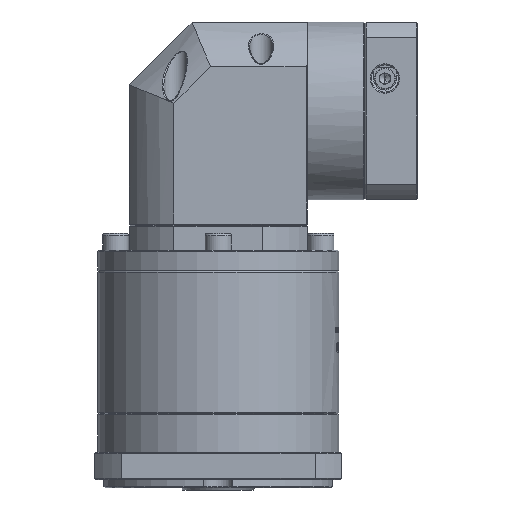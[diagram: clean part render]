
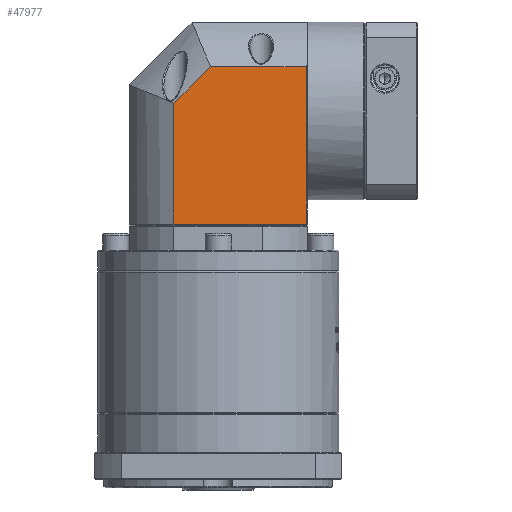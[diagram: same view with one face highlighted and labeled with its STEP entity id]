
A CAD part, front view. The second image highlights one B-rep face of the part: STEP entity #47977.
In plain terms, the highlighted planar face has unit normal (0, -1, 0).
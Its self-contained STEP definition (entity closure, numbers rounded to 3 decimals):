
#3198 = CARTESIAN_POINT ( 'NONE',  ( 19.392, -149.886, -38.442 ) ) ;
#8823 = CARTESIAN_POINT ( 'NONE',  ( 18.892, -149.886, -38.442 ) ) ;
#10480 = ORIENTED_EDGE ( 'NONE', *, *, #59074, .F. ) ;
#12384 = CARTESIAN_POINT ( 'NONE',  ( 19.392, -149.886, 36.772 ) ) ;
#14282 = CARTESIAN_POINT ( 'NONE',  ( -44.321, -149.886, 19.241 ) ) ;
#16632 = EDGE_CURVE ( 'NONE', #95534, #26680, #161624, .T. ) ;
#19673 = DIRECTION ( 'NONE',  ( 0.707, 0., 0.707 ) ) ;
#23538 = VERTEX_POINT ( 'NONE', #54782 ) ;
#23968 = ORIENTED_EDGE ( 'NONE', *, *, #78059, .F. ) ;
#26680 = VERTEX_POINT ( 'NONE', #14282 ) ;
#30997 = ORIENTED_EDGE ( 'NONE', *, *, #16632, .F. ) ;
#31756 = VECTOR ( 'NONE', #84346, 1000. ) ;
#32154 = VECTOR ( 'NONE', #96555, 1000. ) ;
#34014 = PLANE ( 'NONE',  #159411 ) ;
#42902 = DIRECTION ( 'NONE',  ( 1., 0., 0. ) ) ;
#43225 = VECTOR ( 'NONE', #42902, 1000. ) ;
#47977 = ADVANCED_FACE ( 'NONE', ( #80974 ), #34014, .F. ) ;
#48741 = EDGE_LOOP ( 'NONE', ( #148317, #23968, #10480, #167283, #30997 ) ) ;
#54782 = CARTESIAN_POINT ( 'NONE',  ( -26.791, -149.886, 36.772 ) ) ;
#59074 = EDGE_CURVE ( 'NONE', #23538, #115908, #155003, .T. ) ;
#71124 = CARTESIAN_POINT ( 'NONE',  ( 18.892, -149.886, 58.058 ) ) ;
#78059 = EDGE_CURVE ( 'NONE', #115908, #150936, #128422, .T. ) ;
#78233 = LINE ( 'NONE', #3198, #43225 ) ;
#80974 = FACE_OUTER_BOUND ( 'NONE', #48741, .T. ) ;
#84346 = DIRECTION ( 'NONE',  ( 0., 0., -1. ) ) ;
#89191 = VECTOR ( 'NONE', #141714, 1000. ) ;
#89447 = CARTESIAN_POINT ( 'NONE',  ( 18.892, -149.886, 36.772 ) ) ;
#92301 = EDGE_CURVE ( 'NONE', #26680, #23538, #119535, .T. ) ;
#95534 = VERTEX_POINT ( 'NONE', #136694 ) ;
#96555 = DIRECTION ( 'NONE',  ( 0., 0., 1. ) ) ;
#106688 = EDGE_CURVE ( 'NONE', #95534, #150936, #78233, .T. ) ;
#110395 = CARTESIAN_POINT ( 'NONE',  ( -44.321, -149.886, 58.058 ) ) ;
#111251 = VECTOR ( 'NONE', #19673, 1000. ) ;
#115908 = VERTEX_POINT ( 'NONE', #89447 ) ;
#119535 = LINE ( 'NONE', #138661, #111251 ) ;
#125430 = CARTESIAN_POINT ( 'NONE',  ( 19.392, -149.886, 58.058 ) ) ;
#128422 = LINE ( 'NONE', #71124, #31756 ) ;
#136694 = CARTESIAN_POINT ( 'NONE',  ( -44.321, -149.886, -38.442 ) ) ;
#138661 = CARTESIAN_POINT ( 'NONE',  ( -44.321, -149.886, 19.241 ) ) ;
#140336 = DIRECTION ( 'NONE',  ( 0., 1., 0. ) ) ;
#141714 = DIRECTION ( 'NONE',  ( 1., 0., 0. ) ) ;
#148317 = ORIENTED_EDGE ( 'NONE', *, *, #106688, .T. ) ;
#150936 = VERTEX_POINT ( 'NONE', #8823 ) ;
#155003 = LINE ( 'NONE', #12384, #89191 ) ;
#159411 = AXIS2_PLACEMENT_3D ( 'NONE', #125430, #140336, #165586 ) ;
#161624 = LINE ( 'NONE', #110395, #32154 ) ;
#165586 = DIRECTION ( 'NONE',  ( -1., 0., 0. ) ) ;
#167283 = ORIENTED_EDGE ( 'NONE', *, *, #92301, .F. ) ;
